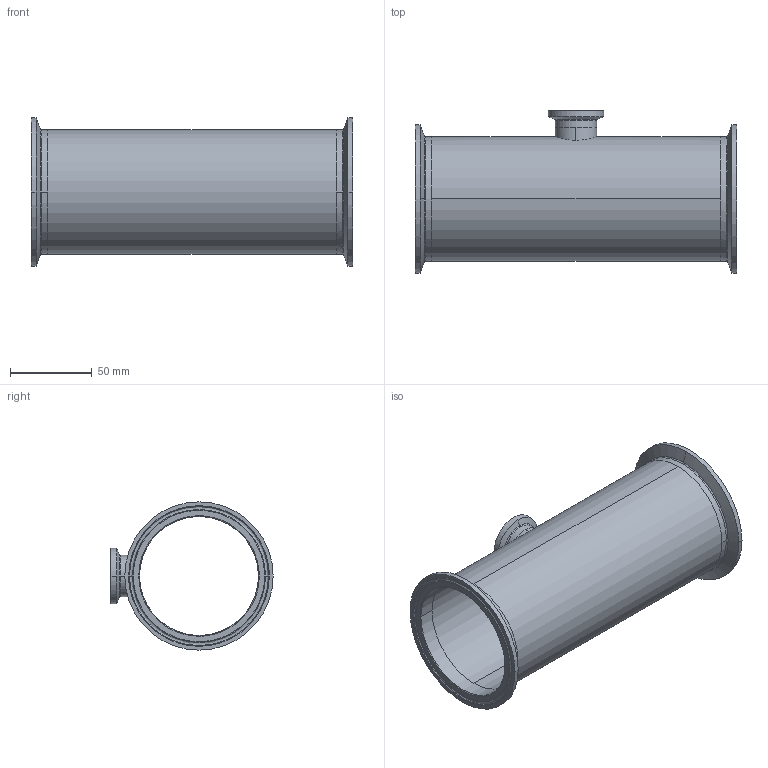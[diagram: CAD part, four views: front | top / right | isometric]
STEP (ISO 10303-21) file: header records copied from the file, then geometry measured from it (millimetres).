
FILE_DESCRIPTION (( 'STEP AP214' ), '1' );
FILE_NAME ('TEG7RS6L3.0x1.0-..Type A.STEP', '2016-05-24T10:49:23', ( 'eran' ), ( '' ), 'SwSTEP 2.0', 'SolidWorks 2016', '' );
FILE_SCHEMA (( 'AUTOMOTIVE_DESIGN' ));
Length unit declared in the file: millimetre
Products named in the file (1): TEG7RS6L3.0x1.0-..Type A
Bounding box: 196.8 x 99.45 x 90.91 mm (x, y, z)
Volume: 94104.1 mm3; surface area: 104619.3 mm2
Topology: 4 solids, 4 shells, 84 faces, 210 edges, 138 vertices
Faces by surface type: cylinder 28, bspline 28, cone 16, plane 12
Entity records: 4303 total; most frequent: CARTESIAN_POINT 2221, DIRECTION 450, ORIENTED_EDGE 420, EDGE_CURVE 210, AXIS2_PLACEMENT_3D 203, CIRCLE 146, VERTEX_POINT 138, EDGE_LOOP 98
